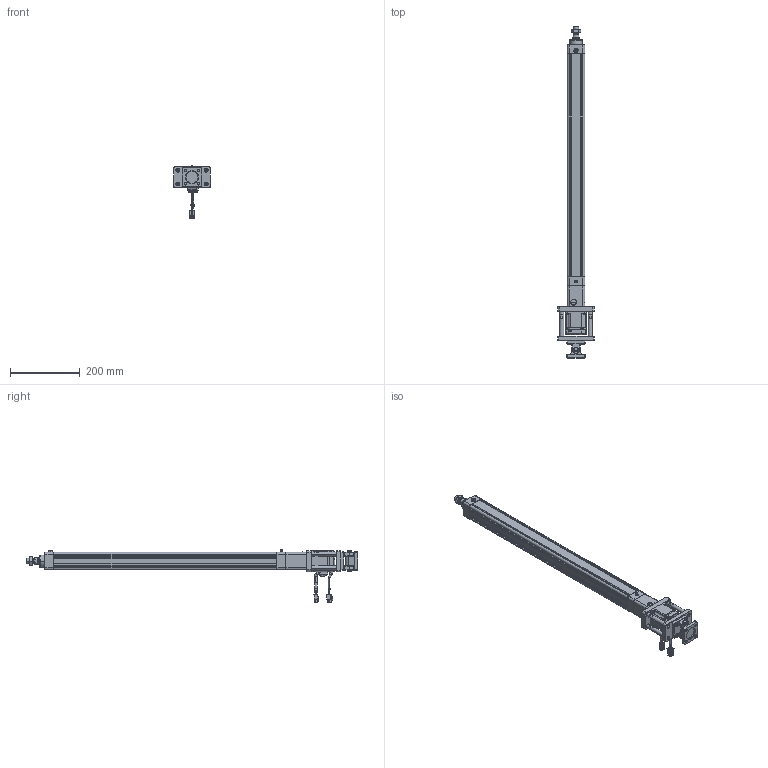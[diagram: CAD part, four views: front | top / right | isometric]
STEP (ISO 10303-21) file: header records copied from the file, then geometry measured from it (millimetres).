
FILE_DESCRIPTION((''),'2;1');
FILE_NAME('HE40-D-100_ASM','2020-05-27T',('ASUS20200'),(''),'CREO PARAMETRIC BY PTC INC, 2014190','CREO PARAMETRIC BY PTC INC, 2014190','');
FILE_SCHEMA(('CONFIG_CONTROL_DESIGN'));
Products named in the file (32): HE40-D-P-001-X1; HE40-D-P-002-X1; HE40-D-P-003-X1; 6200ZZ; HE40-D-009-X1; HE40-D-010-X1; _MHMF022L1A2; _CABLE_MOTOR_BOTTOM_03; _CABLE_MOTOR_TOP_03; _MOTOR_CONNECTOR_2; _CABLE_BRAKE_BOTTOM_03; _CABLE_BRAKE_TOP_03; _MHMF_CONNECTOR_9_PIN_A6; MHMF022L1A2M2_1_ASM; MHMF022L1A2M2_ASM; SLM-01; YZ-M6X1; JDB202820; SKT-13; JX5X5X20; HE40-FB-LG; F-HE40-FB; M6X16; F-SE40CB; F-SE40CB-XD; F-SE40CB_ASM; F-SE40CA; HE40-D-P-005-X1; HE40-D-P-004-X1; HE40-D-P-008-X1; LGLM-M6-22; HE40-D-100_ASM
Assembly tree (48 placements, depth 4):
  HE40-D-100_ASM
    HE40-D-P-001-X1
    HE40-D-P-002-X1
    HE40-D-P-003-X1
    6200ZZ
    HE40-D-009-X1
    HE40-D-010-X1
    MHMF022L1A2M2_ASM
      MHMF022L1A2M2_1_ASM
        _MHMF022L1A2
        _CABLE_MOTOR_BOTTOM_03
        _CABLE_MOTOR_TOP_03
        _MOTOR_CONNECTOR_2
        _CABLE_BRAKE_BOTTOM_03
        _CABLE_BRAKE_TOP_03
        _MHMF_CONNECTOR_9_PIN_A6
    SLM-01
    YZ-M6X1
    JDB202820
    SKT-13
    JX5X5X20
    HE40-FB-LG  x4
    F-HE40-FB
    M6X16  x12
    F-SE40CB_ASM
      F-SE40CB
      F-SE40CB-XD
    F-SE40CA
    HE40-D-P-005-X1
    HE40-D-P-004-X1
    HE40-D-P-008-X1
    LGLM-M6-22  x4
Bounding box: 105 x 955 x 152.7 mm (x, y, z)
Volume: 1362317.5 mm3; surface area: 531145.9 mm2
Topology: 45 solids, 82 shells, 3011 faces, 7135 edges, 4395 vertices
Faces by surface type: plane 1173, cylinder 910, cone 750, torus 138, sphere 36, bspline 4
Entity records: 77381 total; most frequent: CARTESIAN_POINT 14425, DIRECTION 13912, ORIENTED_EDGE 12302, EDGE_CURVE 6207, AXIS2_PLACEMENT_3D 5258, VERTEX_POINT 3854, VECTOR 3396, LINE 3396
